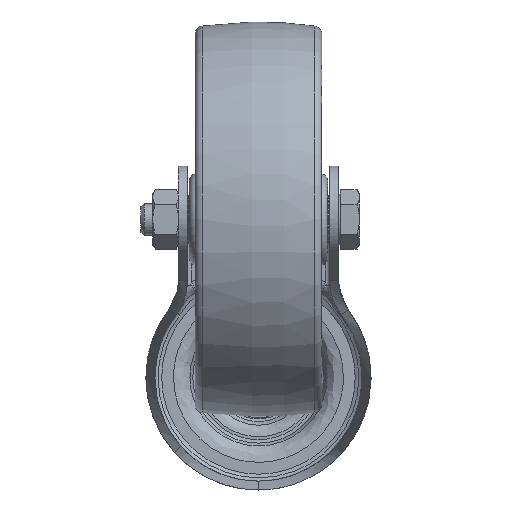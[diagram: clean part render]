
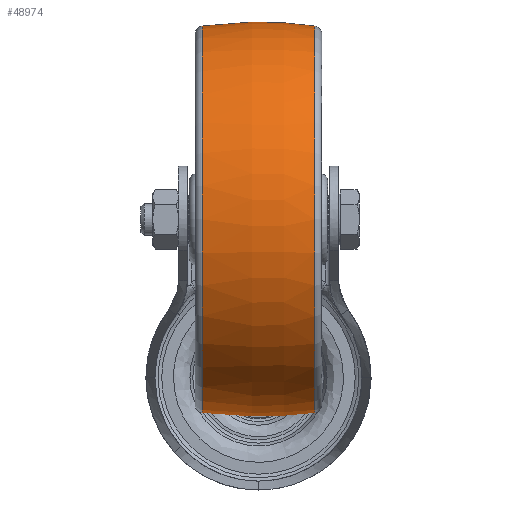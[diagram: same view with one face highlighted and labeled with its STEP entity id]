
A CAD part, front view. The second image highlights one B-rep face of the part: STEP entity #48974.
In plain terms, the highlighted toroidal (fillet/blend) face has major radius 50 mm and minor radius 100 mm.
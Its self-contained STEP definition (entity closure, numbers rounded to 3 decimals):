
#2618 = FACE_OUTER_BOUND ( 'NONE', #23123, .T. ) ;
#2632 = FACE_OUTER_BOUND ( 'NONE', #23137, .T. ) ;
#2634 = TOROIDAL_SURFACE ( 'NONE', #14121, -50., 100. ) ;
#5241 = VERTEX_POINT ( 'NONE', #5242 ) ;
#5242 = CARTESIAN_POINT ( 'NONE',  ( -14.286, 0., 48.974 ) ) ;
#5243 = VERTEX_POINT ( 'NONE', #5244 ) ;
#5244 = CARTESIAN_POINT ( 'NONE',  ( 14.286, 0., 48.974 ) ) ;
#9465 = ORIENTED_EDGE ( 'NONE', *, *, #45798, .F. ) ;
#10064 = ORIENTED_EDGE ( 'NONE', *, *, #45799, .T. ) ;
#14121 = AXIS2_PLACEMENT_3D ( 'NONE', #26462, #26459, #26490 ) ;
#23123 = EDGE_LOOP ( 'NONE', ( #9465 ) ) ;
#23137 = EDGE_LOOP ( 'NONE', ( #10064 ) ) ;
#26459 = DIRECTION ( 'NONE',  ( -1., 0., 0. ) ) ;
#26462 = CARTESIAN_POINT ( 'NONE',  ( 0., 0., 0. ) ) ;
#26490 = DIRECTION ( 'NONE',  ( 0., 0., 1. ) ) ;
#41779 = CIRCLE ( 'NONE', #47283, 48.974 ) ;
#41780 = CIRCLE ( 'NONE', #47282, 48.974 ) ;
#45798 = EDGE_CURVE ( 'NONE', #5241, #5241, #41780, .T. ) ;
#45799 = EDGE_CURVE ( 'NONE', #5243, #5243, #41779, .T. ) ;
#47282 = AXIS2_PLACEMENT_3D ( 'NONE', #50425, #50432, #50433 ) ;
#47283 = AXIS2_PLACEMENT_3D ( 'NONE', #50428, #50435, #50436 ) ;
#48974 = ADVANCED_FACE ( 'NONE', ( #2618, #2632 ), #2634, .T. ) ;
#50425 = CARTESIAN_POINT ( 'NONE',  ( -14.286, 0., 0. ) ) ;
#50428 = CARTESIAN_POINT ( 'NONE',  ( 14.286, 0., 0. ) ) ;
#50432 = DIRECTION ( 'NONE',  ( -1., 0., 0. ) ) ;
#50433 = DIRECTION ( 'NONE',  ( 0., 0., 1. ) ) ;
#50435 = DIRECTION ( 'NONE',  ( -1., 0., 0. ) ) ;
#50436 = DIRECTION ( 'NONE',  ( 0., 0., 1. ) ) ;
